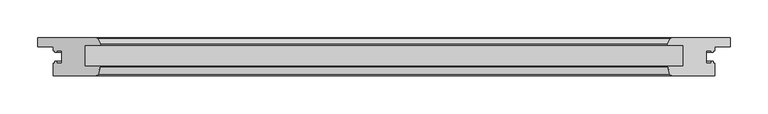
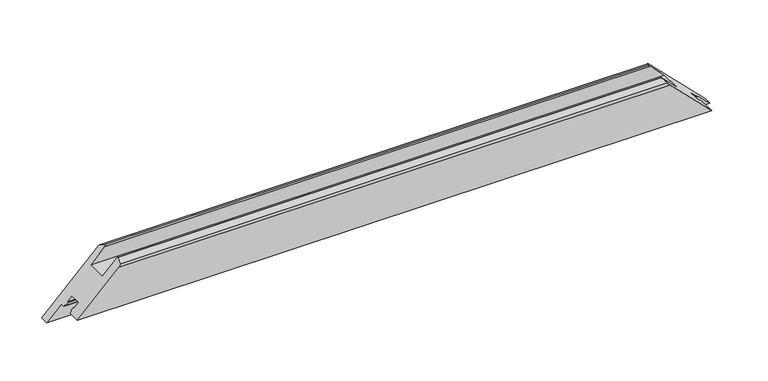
"""IFC4 building model written with IfcOpenShell, lengths in millimetres: proxy geometry, Weiku - Montante - Folha 02.2.01.017 : Weiku - Montante - Folha 02.2.01.017."""

from ifc_helpers import new_model, si_unit, frame, origin, place, context, project, spatial, ellipse_curve, source, transform, mapped, element, save
from ifc_brep_helpers import plane_surface, cylinder_surface, advanced_brep


def generic_models_91e54ff4(model_context):
    return source(origin(), model_context, "Body", "AdvancedBrep", [
        advanced_brep(
        [(-436.5, -50.0, 20.0), (436.5, -50.0, 20.0), (379.4997332, -50.0, 77.0002668), (-379.4997332, -50.0, 77.0002668), (-456.5, 0.0, 0.0), (-378.4872264, 0.0, 78.0127736), (378.4872264, 0.0, 78.0127736), (456.5, 0.0, 0.0), (-376.6019557, -47.7764571, 79.8980443), (-374.0170371, -38.1294095, 82.4829629), (-374.5, -37.5, 82.0), (-395.0, -37.5, 61.5), (-395.0, -9.5, 61.5), (-375.2134285, -9.5, 81.2865715), (-374.0512796, -7.617411, 82.4487204), (-377.5932657, -0.5518546, 78.9067343), (-456.5, -11.5, 0.0), (-436.5, -11.5, 20.0), (-436.5, -16.9, 20.0), (-434.3, -16.9, 22.2), (-434.3, -18.9, 22.2), (-431.5, -18.9, 25.0), (-431.5, -16.9, 25.0), (-425.0, -16.9, 31.5), (-425.0, -33.1, 31.5), (-431.5, -33.1, 25.0), (-431.5, -31.1, 25.0), (-434.3, -31.1, 22.2), (-434.3, -33.1, 22.2), (-436.5, -33.1, 20.0), (436.5, -33.1, 20.0), (434.3, -33.1, 22.2), (434.3, -31.1, 22.2), (431.5, -31.1, 25.0), (431.5, -33.1, 25.0), (425.0, -33.1, 31.5), (425.0, -16.9, 31.5), (431.5, -16.9, 25.0), (431.5, -18.9, 25.0), (434.3, -18.9, 22.2), (434.3, -16.9, 22.2), (436.5, -16.9, 20.0), (436.5, -11.5, 20.0), (456.5, -11.5, 0.0), (377.5932657, -0.5518546, 78.9067343), (374.0512796, -7.617411, 82.4487204), (375.2134285, -9.5, 81.2865715), (395.0, -9.5, 61.5), (395.0, -37.5, 61.5), (374.5, -37.5, 82.0), (374.0170371, -38.1294095, 82.4829629), (376.6019557, -47.7764571, 79.8980443)],
        [
            (0, 1),
            (1, 2),
            (2, 3),
            (3, 0),
            (4, 5),
            (5, 6),
            (6, 7),
            (7, 4),
            (3, 8, ellipse_curve(frame((-379.4997332, -47.0, 77.0002668), z_axis=(-0.7071067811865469, 0.0, 0.7071067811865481), x_axis=(-0.7071067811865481, 0.0, -0.7071067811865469)), 4.2426407, 3.0)),
            (8, 9),
            (9, 10, ellipse_curve(frame((-374.5, -38.0, 82.0), z_axis=(-0.7071067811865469, 0.0, 0.7071067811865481), x_axis=(-0.7071067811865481, 0.0, -0.7071067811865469)), 0.7071068, 0.5)),
            (10, 11),
            (11, 12),
            (12, 13),
            (13, 14, ellipse_curve(frame((-375.2134285, -8.2, 81.2865715), z_axis=(-0.7071067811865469, 0.0, 0.7071067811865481), x_axis=(-0.7071067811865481, 0.0, -0.7071067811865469)), 1.8384776, 1.3)),
            (14, 15),
            (15, 5, ellipse_curve(frame((-378.4872264, -1.0, 78.0127736), z_axis=(-0.7071067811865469, 0.0, 0.7071067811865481), x_axis=(-0.7071067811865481, 0.0, -0.7071067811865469)), 1.4142136, 1.0)),
            (4, 16),
            (16, 17),
            (17, 18),
            (18, 19),
            (19, 20),
            (20, 21),
            (21, 22),
            (22, 23),
            (23, 24),
            (24, 25),
            (25, 26),
            (26, 27),
            (27, 28),
            (28, 29),
            (29, 0),
            (1, 30),
            (30, 31),
            (31, 32),
            (32, 33),
            (33, 34),
            (34, 35),
            (35, 36),
            (36, 37),
            (37, 38),
            (38, 39),
            (39, 40),
            (40, 41),
            (41, 42),
            (42, 43),
            (43, 7),
            (6, 44, ellipse_curve(frame((378.4872264, -1.0, 78.0127736), z_axis=(0.7071067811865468, 0.0, 0.7071067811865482), x_axis=(-0.7071067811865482, 0.0, 0.7071067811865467)), 1.4142136, 1.0)),
            (44, 45),
            (45, 46, ellipse_curve(frame((375.2134285, -8.2, 81.2865715), z_axis=(0.7071067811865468, 0.0, 0.7071067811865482), x_axis=(-0.7071067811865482, 0.0, 0.7071067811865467)), 1.8384776, 1.3)),
            (46, 47),
            (47, 48),
            (48, 49),
            (49, 50, ellipse_curve(frame((374.5, -38.0, 82.0), z_axis=(0.7071067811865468, 0.0, 0.7071067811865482), x_axis=(-0.7071067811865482, 0.0, 0.7071067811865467)), 0.7071068, 0.5)),
            (50, 51),
            (51, 2, ellipse_curve(frame((379.4997332, -47.0, 77.0002668), z_axis=(0.7071067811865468, 0.0, 0.7071067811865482), x_axis=(-0.7071067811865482, 0.0, 0.7071067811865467)), 4.2426407, 3.0)),
            (15, 44),
            (14, 45),
            (13, 46),
            (12, 47),
            (11, 48),
            (10, 49),
            (9, 50),
            (8, 51),
            (29, 30),
            (28, 31),
            (27, 32),
            (26, 33),
            (25, 34),
            (24, 35),
            (23, 36),
            (22, 37),
            (21, 38),
            (20, 39),
            (19, 40),
            (18, 41),
            (17, 42),
            (16, 43),
        ],
        [
            plane_surface(frame((-456.5, -50.0, 77.0002668), z_axis=(0.0, -1.0, 0.0), x_axis=(1.0, 0.0, 0.0))),
            plane_surface(frame((-456.5, 0.0, 0.0), z_axis=(0.0, 1.0, 0.0), x_axis=(1.0, 0.0, 0.0))),
            plane_surface(frame((-484.7842712, 0.0, -28.2842712), z_axis=(-0.7071067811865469, 0.0, 0.7071067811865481), x_axis=(0.0, -1.0, 0.0))),
            plane_surface(frame((366.5, 0.0, 90.0), z_axis=(0.7071067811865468, 0.0, 0.7071067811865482), x_axis=(0.0, -1.0, 0.0))),
            cylinder_surface(frame((-456.5, -1.0, 78.0127736), z_axis=(-1.0, 0.0, 0.0), x_axis=(0.0, -1.0, 0.0)), 1.0),
            plane_surface(frame((-456.5, -0.5518546, 78.9067343), z_axis=(0.0, 0.4481453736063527, 0.8939606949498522), x_axis=(1.0, 0.0, 0.0))),
            cylinder_surface(frame((-456.5, -8.2, 81.2865715), z_axis=(-1.0, 0.0, 0.0), x_axis=(0.0, -1.0, 0.0)), 1.3),
            plane_surface(frame((-456.5, -9.5, 81.2865715), z_axis=(0.0, -1.0, 0.0), x_axis=(1.0, 0.0, 0.0))),
            plane_surface(frame((-456.5, -9.5, 61.5), z_axis=(0.0, 0.0, 1.0), x_axis=(1.0, 0.0, 0.0))),
            plane_surface(frame((-456.5, -37.5, 61.5), z_axis=(0.0, 1.0, 0.0), x_axis=(1.0, 0.0, 0.0))),
            cylinder_surface(frame((-456.5, -38.0, 82.0), z_axis=(-1.0, 0.0, 0.0), x_axis=(0.0, -1.0, 0.0)), 0.5),
            plane_surface(frame((-456.5, -38.1294095, 82.4829629), z_axis=(0.0, -0.2588190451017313, 0.9659258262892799), x_axis=(1.0, 0.0, 0.0))),
            cylinder_surface(frame((-456.5, -47.0, 77.0002668), z_axis=(-1.0, 0.0, 0.0), x_axis=(0.0, -1.0, 0.0)), 3.0),
            plane_surface(frame((-456.5, -50.0, 20.0), z_axis=(0.0, 0.0, -1.0), x_axis=(1.0, 0.0, 0.0))),
            plane_surface(frame((-456.5, -33.1, 20.0), z_axis=(0.0, 1.0, 0.0), x_axis=(1.0, 0.0, 0.0))),
            plane_surface(frame((-456.5, -33.1, 22.2), z_axis=(0.0, 0.0, -1.0), x_axis=(1.0, 0.0, 0.0))),
            plane_surface(frame((-456.5, -31.1, 22.2), z_axis=(0.0, 1.0, 0.0), x_axis=(1.0, 0.0, 0.0))),
            plane_surface(frame((-456.5, -31.1, 25.0), z_axis=(0.0, 0.0, 1.0), x_axis=(1.0, 0.0, 0.0))),
            plane_surface(frame((-456.5, -33.1, 25.0), z_axis=(0.0, 1.0, 0.0), x_axis=(1.0, 0.0, 0.0))),
            plane_surface(frame((-456.5, -33.1, 31.5), z_axis=(0.0, 0.0, -1.0), x_axis=(1.0, 0.0, 0.0))),
            plane_surface(frame((-456.5, -16.9, 31.5), z_axis=(0.0, -1.0, 0.0), x_axis=(1.0, 0.0, 0.0))),
            plane_surface(frame((-456.5, -16.9, 25.0), z_axis=(0.0, 0.0, 1.0), x_axis=(1.0, 0.0, 0.0))),
            plane_surface(frame((-456.5, -18.9, 25.0), z_axis=(0.0, -1.0, 0.0), x_axis=(1.0, 0.0, 0.0))),
            plane_surface(frame((-456.5, -18.9, 22.2), z_axis=(0.0, 0.0, -1.0), x_axis=(1.0, 0.0, 0.0))),
            plane_surface(frame((-456.5, -16.9, 22.2), z_axis=(0.0, -1.0, 0.0), x_axis=(1.0, 0.0, 0.0))),
            plane_surface(frame((-456.5, -16.9, 20.0), z_axis=(0.0, 0.0, -1.0), x_axis=(1.0, 0.0, 0.0))),
            plane_surface(frame((-456.5, -11.5, 20.0), z_axis=(0.0, -1.0, 0.0), x_axis=(1.0, 0.0, 0.0))),
            plane_surface(frame((-456.5, -11.5, 0.0), z_axis=(0.0, 0.0, -1.0), x_axis=(1.0, 0.0, 0.0))),
        ],
        [
            (0, [[1, 2, 3, 4]]),
            (1, [[5, 6, 7, 8]]),
            (2, [[9, 10, 11, 12, 13, 14, 15, 16, 17, -5, 18, 19, 20, 21, 22, 23, 24, 25, 26, 27, 28, 29, 30, 31, 32, -4]]),
            (3, [[33, 34, 35, 36, 37, 38, 39, 40, 41, 42, 43, 44, 45, 46, 47, -7, 48, 49, 50, 51, 52, 53, 54, 55, 56, -2]]),
            (4, [[57, -48, -6, -17]]),
            (5, [[58, -49, -57, -16]]),
            (6, [[59, -50, -58, -15]]),
            (7, [[60, -51, -59, -14]]),
            (8, [[61, -52, -60, -13]]),
            (9, [[62, -53, -61, -12]]),
            (10, [[63, -54, -62, -11]]),
            (11, [[64, -55, -63, -10]]),
            (12, [[-3, -56, -64, -9]]),
            (13, [[65, -33, -1, -32]]),
            (14, [[66, -34, -65, -31]]),
            (15, [[67, -35, -66, -30]]),
            (16, [[68, -36, -67, -29]]),
            (17, [[69, -37, -68, -28]]),
            (18, [[70, -38, -69, -27]]),
            (19, [[71, -39, -70, -26]]),
            (20, [[72, -40, -71, -25]]),
            (21, [[73, -41, -72, -24]]),
            (22, [[74, -42, -73, -23]]),
            (23, [[75, -43, -74, -22]]),
            (24, [[76, -44, -75, -21]]),
            (25, [[77, -45, -76, -20]]),
            (26, [[-46, -77, -19, 78]]),
            (27, [[-47, -78, -18, -8]]),
        ],
    ),
    ])


if __name__ == "__main__":
    model = new_model("IFC4")
    model_context = context("Model", 3, world=origin())
    ifc_project = project(units=[si_unit("LENGTHUNIT", "METRE", prefix="MILLI")], contexts=[model_context])
    site = spatial("IfcSite", under=ifc_project)
    building = spatial("IfcBuilding", under=site)
    placement = place(None, origin())
    generic_models_shape = generic_models_91e54ff4(model_context)
    element("IfcBuildingElementProxy", 1, Name="Weiku - Montante - Folha 02.2.01.017 : Weiku - Montante - Folha 02.2.01.017", ObjectType="Weiku - Montante - Folha 02.2.01.017 : Weiku - Montante - Folha 02.2.01.017", at=placement, inside=building, context=model_context, shape_type="MappedRepresentation", body=[
        mapped(generic_models_shape, transform((0.0, 0.0, 0.0), x_axis=(1.0, 0.0, 0.0), y_axis=(0.0, 1.0, 0.0), z_axis=(0.0, 0.0, 1.0))),
    ])
    save(model, "model.ifc")
